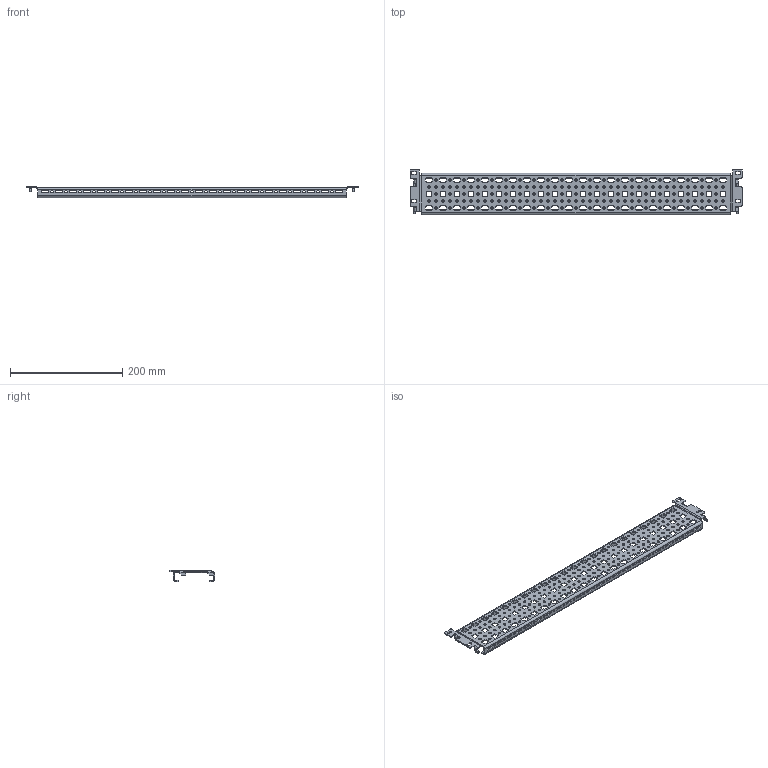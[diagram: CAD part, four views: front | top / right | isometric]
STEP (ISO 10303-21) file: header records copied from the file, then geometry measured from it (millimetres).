
FILE_DESCRIPTION (( 'STEP AP203' ), '1' );
FILE_NAME ('MMD 60.09 Øàññè ñèñòåìíîå.STEP', '2025-05-15T11:50:17', ( '' ), ( '' ), 'SwSTEP 2.0', 'SolidWorks 2019', '' );
FILE_SCHEMA (( 'CONFIG_CONTROL_DESIGN' ));
Length unit declared in the file: millimetre
Products named in the file (1): MMD 60.09 Øàññè ñèñòåìíîå
Bounding box: 592.72 x 81 x 20.03 mm (x, y, z)
Volume: 111165.3 mm3; surface area: 128178.8 mm2
Topology: 1 solids, 1 shells, 1372 faces, 4034 edges, 2664 vertices
Faces by surface type: plane 908, cylinder 464
Entity records: 46825 total; most frequent: CARTESIAN_POINT 8161, ORIENTED_EDGE 8068, DIRECTION 7688, EDGE_CURVE 4034, VECTOR 3086, LINE 3086, VERTEX_POINT 2664, AXIS2_PLACEMENT_3D 2301
